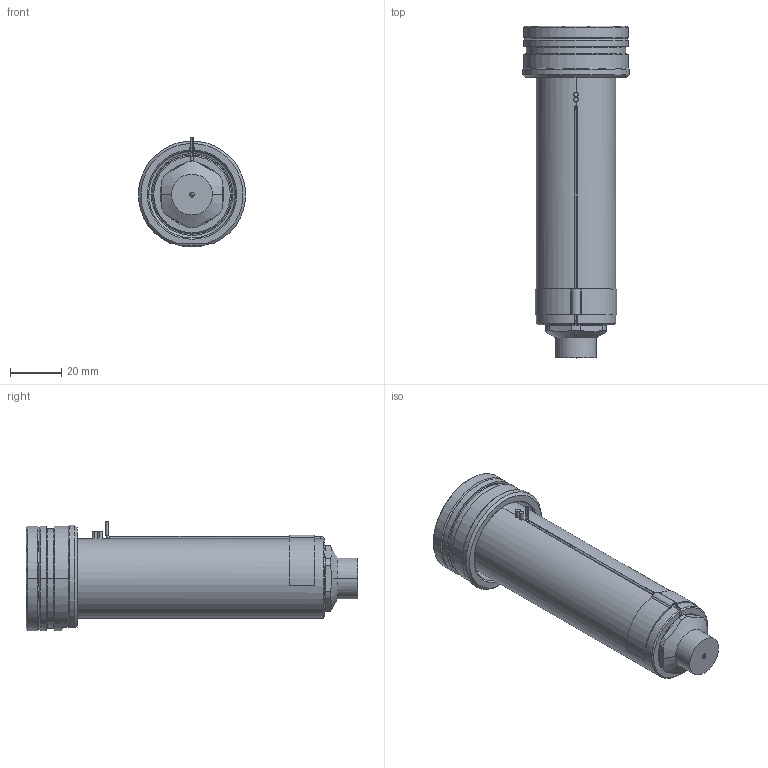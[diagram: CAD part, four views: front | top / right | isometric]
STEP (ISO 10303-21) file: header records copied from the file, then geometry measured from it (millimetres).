
FILE_DESCRIPTION((''),'2;1');
FILE_NAME('EO12_PG-FB_STD_110_SW','2024-02-19T11:37:01',('sundharh'),(''),'CREO PARAMETRIC BY PTC INC, 2023154','CREO PARAMETRIC BY PTC INC, 2023154','');
FILE_SCHEMA(('CONFIG_CONTROL_DESIGN'));
Length unit declared in the file: millimetre
Products named in the file (1): EO12_PG-FB_STD_110_SW
Bounding box: 41.85 x 130 x 43 mm (x, y, z)
Volume: 87914.5 mm3; surface area: 25772.5 mm2
Topology: 2 solids, 3 shells, 218 faces, 583 edges, 359 vertices
Faces by surface type: cylinder 82, plane 60, cone 43, torus 27, sphere 3, bspline 3
Entity records: 7898 total; most frequent: CARTESIAN_POINT 2327, DIRECTION 1227, ORIENTED_EDGE 1158, EDGE_CURVE 579, AXIS2_PLACEMENT_3D 516, VERTEX_POINT 359, CIRCLE 301, EDGE_LOOP 236
